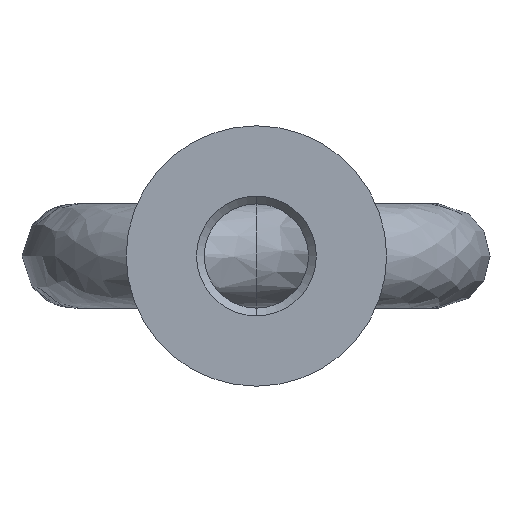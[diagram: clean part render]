
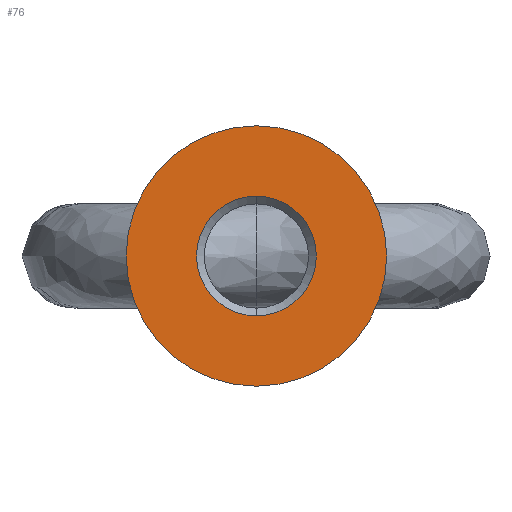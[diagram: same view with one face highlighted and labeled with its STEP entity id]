
A CAD part, front view. The second image highlights one B-rep face of the part: STEP entity #76.
In plain terms, the highlighted planar face has unit normal (0, -1, 0).
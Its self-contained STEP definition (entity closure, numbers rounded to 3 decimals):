
#21 = FACE_BOUND ( 'NONE', #3002, .T. ) ;
#76 = ADVANCED_FACE ( 'NONE', ( #21, #2546 ), #443, .T. ) ;
#133 = VERTEX_POINT ( 'NONE', #2319 ) ;
#138 = CARTESIAN_POINT ( 'NONE',  ( 0., 0., 0. ) ) ;
#208 = ORIENTED_EDGE ( 'NONE', *, *, #835, .F. ) ;
#225 = ORIENTED_EDGE ( 'NONE', *, *, #1646, .F. ) ;
#254 = DIRECTION ( 'NONE',  ( 0., 0., 1. ) ) ;
#443 = PLANE ( 'NONE',  #1062 ) ;
#478 = DIRECTION ( 'NONE',  ( 0., 1., 0. ) ) ;
#482 = CIRCLE ( 'NONE', #1501, 5.75 ) ;
#835 = EDGE_CURVE ( 'NONE', #133, #1423, #1409, .T. ) ;
#839 = DIRECTION ( 'NONE',  ( 0., 0., 1. ) ) ;
#873 = CARTESIAN_POINT ( 'NONE',  ( 0., 0., -5.75 ) ) ;
#882 = VERTEX_POINT ( 'NONE', #2107 ) ;
#922 = AXIS2_PLACEMENT_3D ( 'NONE', #2698, #2026, #2500 ) ;
#1062 = AXIS2_PLACEMENT_3D ( 'NONE', #2528, #1358, #2302 ) ;
#1202 = VERTEX_POINT ( 'NONE', #873 ) ;
#1280 = EDGE_CURVE ( 'NONE', #1202, #882, #1741, .T. ) ;
#1342 = DIRECTION ( 'NONE',  ( 0., 0., -1. ) ) ;
#1358 = DIRECTION ( 'NONE',  ( 0., -1., 0. ) ) ;
#1409 = CIRCLE ( 'NONE', #1497, 12.5 ) ;
#1423 = VERTEX_POINT ( 'NONE', #2577 ) ;
#1497 = AXIS2_PLACEMENT_3D ( 'NONE', #2758, #478, #254 ) ;
#1501 = AXIS2_PLACEMENT_3D ( 'NONE', #138, #1755, #1342 ) ;
#1541 = EDGE_CURVE ( 'NONE', #882, #1202, #482, .T. ) ;
#1646 = EDGE_CURVE ( 'NONE', #1423, #133, #2485, .T. ) ;
#1741 = CIRCLE ( 'NONE', #922, 5.75 ) ;
#1755 = DIRECTION ( 'NONE',  ( 0., 1., 0. ) ) ;
#1805 = CARTESIAN_POINT ( 'NONE',  ( 0., 0., 0. ) ) ;
#1831 = ORIENTED_EDGE ( 'NONE', *, *, #1280, .T. ) ;
#1857 = ORIENTED_EDGE ( 'NONE', *, *, #1541, .T. ) ;
#1989 = EDGE_LOOP ( 'NONE', ( #208, #225 ) ) ;
#2026 = DIRECTION ( 'NONE',  ( 0., 1., 0. ) ) ;
#2107 = CARTESIAN_POINT ( 'NONE',  ( 0., 0., 5.75 ) ) ;
#2302 = DIRECTION ( 'NONE',  ( 0., 0., -1. ) ) ;
#2319 = CARTESIAN_POINT ( 'NONE',  ( 0., 0., -12.5 ) ) ;
#2439 = AXIS2_PLACEMENT_3D ( 'NONE', #1805, #2740, #839 ) ;
#2485 = CIRCLE ( 'NONE', #2439, 12.5 ) ;
#2500 = DIRECTION ( 'NONE',  ( 0., 0., -1. ) ) ;
#2528 = CARTESIAN_POINT ( 'NONE',  ( 0., 0., 0. ) ) ;
#2546 = FACE_OUTER_BOUND ( 'NONE', #1989, .T. ) ;
#2577 = CARTESIAN_POINT ( 'NONE',  ( 0., 0., 12.5 ) ) ;
#2698 = CARTESIAN_POINT ( 'NONE',  ( 0., 0., 0. ) ) ;
#2740 = DIRECTION ( 'NONE',  ( 0., 1., 0. ) ) ;
#2758 = CARTESIAN_POINT ( 'NONE',  ( 0., 0., 0. ) ) ;
#3002 = EDGE_LOOP ( 'NONE', ( #1831, #1857 ) ) ;
